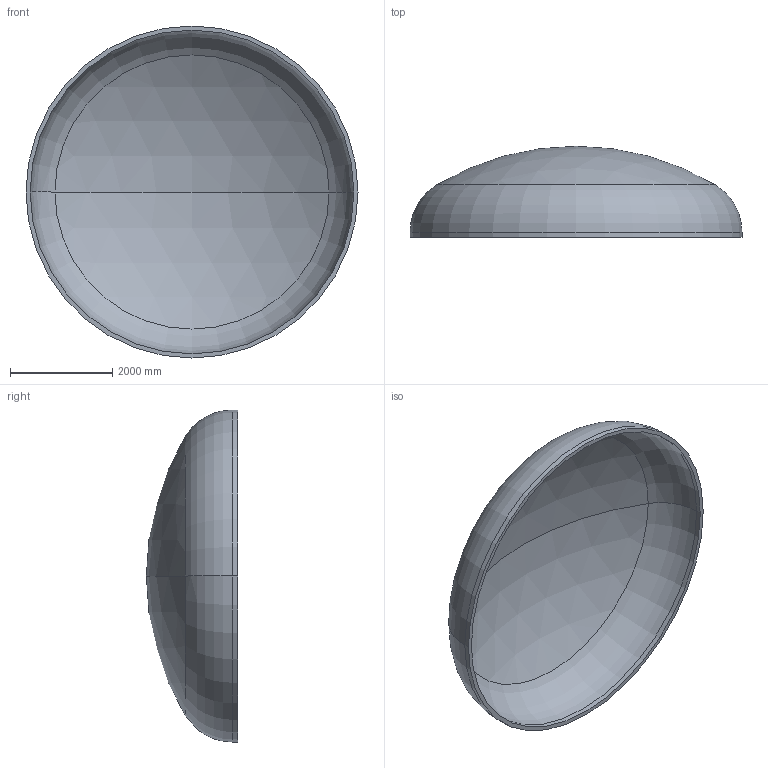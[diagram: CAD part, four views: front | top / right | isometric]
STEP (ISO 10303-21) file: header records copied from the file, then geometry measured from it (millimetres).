
FILE_DESCRIPTION (( 'STEP AP203' ), '1' );
FILE_NAME ('DIN 28013 Korbbogenform_-_Boden DIN 28013 - 6500 x 100 - I - s=82.step', '2016-07-04T10:43:24', ( '' ), ( '' ), 'SwSTEP 2.0', 'SolidWorks 2013', '' );
FILE_SCHEMA (( 'CONFIG_CONTROL_DESIGN' ));
Length unit declared in the file: millimetre
Products named in the file (1): DIN 28013 Korbbogenform_-_Boden DIN 28013 - 6500 x 100 - I - s=82
Bounding box: 6500 x 1784.81 x 6500 mm (x, y, z)
Volume: 3870842407.1 mm3; surface area: 96078181.9 mm2
Topology: 1 solids, 1 shells, 13 faces, 24 edges, 14 vertices
Faces by surface type: torus 4, cylinder 4, sphere 4, plane 1
Entity records: 407 total; most frequent: DIRECTION 72, CARTESIAN_POINT 52, ORIENTED_EDGE 48, AXIS2_PLACEMENT_3D 34, EDGE_CURVE 24, CIRCLE 20, EDGE_LOOP 14, VERTEX_POINT 14
